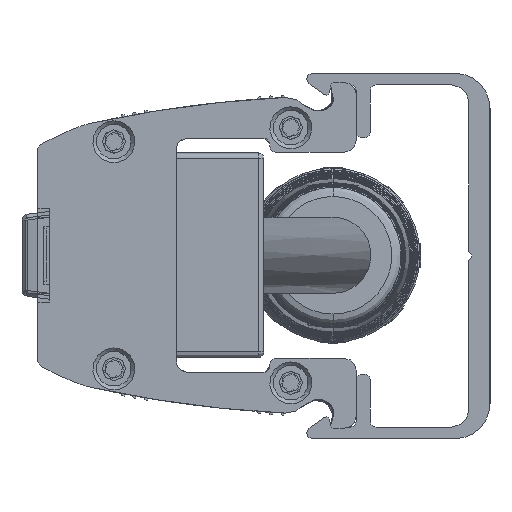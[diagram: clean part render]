
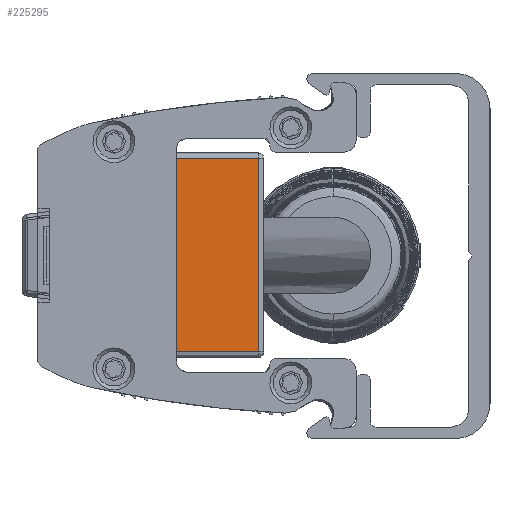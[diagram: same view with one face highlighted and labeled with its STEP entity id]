
A CAD part, left-side view. The second image highlights one B-rep face of the part: STEP entity #225295.
In plain terms, the highlighted planar face has unit normal (-1, 0, 0).
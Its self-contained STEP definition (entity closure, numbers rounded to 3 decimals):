
#97 = EDGE_CURVE ( 'NONE', #224834, #196163, #160554, .T. ) ;
#12386 = VECTOR ( 'NONE', #71588, 1000. ) ;
#12932 = VECTOR ( 'NONE', #19676, 1000. ) ;
#19676 = DIRECTION ( 'NONE',  ( 0., 0., -1. ) ) ;
#42333 = VERTEX_POINT ( 'NONE', #99570 ) ;
#48299 = DIRECTION ( 'NONE',  ( 0., -1., 0. ) ) ;
#50468 = PLANE ( 'NONE',  #145517 ) ;
#57735 = EDGE_CURVE ( 'NONE', #71702, #224834, #150224, .T. ) ;
#68594 = LINE ( 'NONE', #184057, #133374 ) ;
#71588 = DIRECTION ( 'NONE',  ( 0., 0., 1. ) ) ;
#71702 = VERTEX_POINT ( 'NONE', #239294 ) ;
#74061 = CARTESIAN_POINT ( 'NONE',  ( -999.5, -7., 8.75 ) ) ;
#77962 = CARTESIAN_POINT ( 'NONE',  ( -999.5, 0., -8.75 ) ) ;
#83858 = CARTESIAN_POINT ( 'NONE',  ( -999.5, -7., 8.25 ) ) ;
#88507 = DIRECTION ( 'NONE',  ( 1., 0., 0. ) ) ;
#88765 = EDGE_CURVE ( 'NONE', #196163, #42333, #98213, .T. ) ;
#98213 = LINE ( 'NONE', #77962, #12932 ) ;
#98524 = VECTOR ( 'NONE', #183307, 1000. ) ;
#99570 = CARTESIAN_POINT ( 'NONE',  ( -999.5, 0., -8.25 ) ) ;
#133374 = VECTOR ( 'NONE', #48299, 1000. ) ;
#134494 = EDGE_LOOP ( 'NONE', ( #196160, #208771, #170024, #156090 ) ) ;
#139463 = FACE_OUTER_BOUND ( 'NONE', #134494, .T. ) ;
#145517 = AXIS2_PLACEMENT_3D ( 'NONE', #145671, #88507, #183740 ) ;
#145671 = CARTESIAN_POINT ( 'NONE',  ( -999.5, -7.5, -8.75 ) ) ;
#150224 = LINE ( 'NONE', #74061, #12386 ) ;
#156090 = ORIENTED_EDGE ( 'NONE', *, *, #97, .T. ) ;
#160554 = LINE ( 'NONE', #217641, #98524 ) ;
#170024 = ORIENTED_EDGE ( 'NONE', *, *, #57735, .T. ) ;
#183307 = DIRECTION ( 'NONE',  ( 0., 1., 0. ) ) ;
#183740 = DIRECTION ( 'NONE',  ( 0., 0., -1. ) ) ;
#184057 = CARTESIAN_POINT ( 'NONE',  ( -999.5, -7.5, -8.25 ) ) ;
#196160 = ORIENTED_EDGE ( 'NONE', *, *, #88765, .T. ) ;
#196163 = VERTEX_POINT ( 'NONE', #213791 ) ;
#208771 = ORIENTED_EDGE ( 'NONE', *, *, #225019, .T. ) ;
#213791 = CARTESIAN_POINT ( 'NONE',  ( -999.5, 0., 8.25 ) ) ;
#217641 = CARTESIAN_POINT ( 'NONE',  ( -999.5, -7.5, 8.25 ) ) ;
#224834 = VERTEX_POINT ( 'NONE', #83858 ) ;
#225019 = EDGE_CURVE ( 'NONE', #42333, #71702, #68594, .T. ) ;
#225295 = ADVANCED_FACE ( 'NONE', ( #139463 ), #50468, .F. ) ;
#239294 = CARTESIAN_POINT ( 'NONE',  ( -999.5, -7., -8.25 ) ) ;
